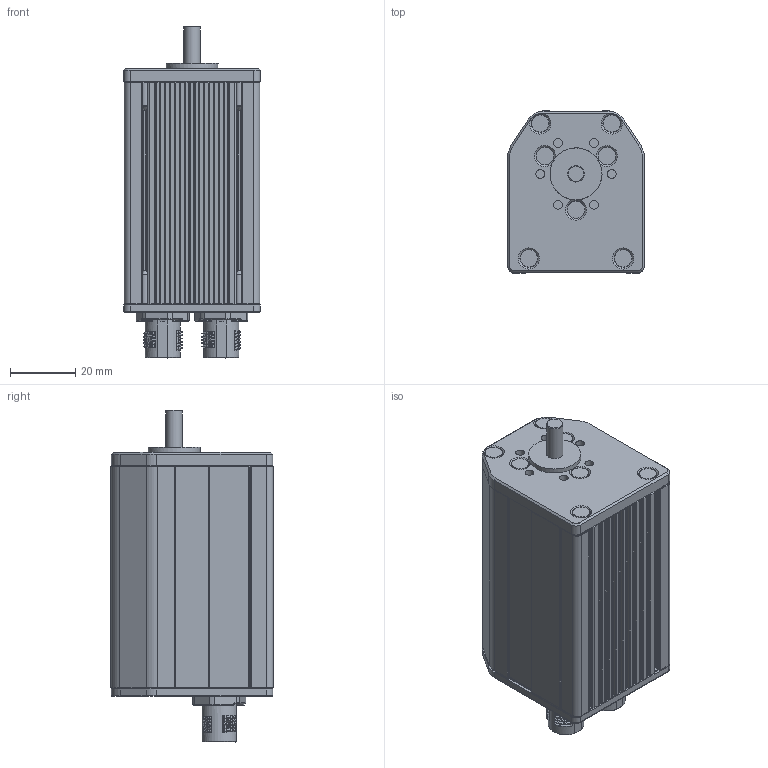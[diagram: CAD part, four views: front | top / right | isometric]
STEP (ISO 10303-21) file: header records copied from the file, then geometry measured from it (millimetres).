
FILE_DESCRIPTION(/* description */ (''),/* implementation_level */ '2;1');
FILE_NAME(/* name */ 'MCS_RSCO_axial_L75.stp',/* time_stamp */ '2017-04-18T08:45:42+02:00',/* author */ ('DR. FRITZ FAULHABER GmbH & Co. KG'),/* organization */ ('DR. FRITZ FAULHABER GmbH & Co. KG'),/* preprocessor_version */ 'ST-DEVELOPER v16',/* originating_system */ 'SIEMENS PLM Software NX 10.0',/* authorisation */ '');
FILE_SCHEMA (('AUTOMOTIVE_DESIGN { 1 0 10303 214 3 1 1 1 }'));
Products named in the file (1): H00000997_D
Bounding box: 42 x 50 x 102.1 mm (x, y, z)
Volume: 145145.4 mm3; surface area: 24226.8 mm2
Topology: 1 solids, 5 shells, 1232 faces, 3165 edges, 1971 vertices
Faces by surface type: plane 496, cylinder 406, bspline 178, torus 72, cone 36, sphere 32, extrusion 12
Full cylindrical faces by diameter (mm): 1.5 x1, 2.7 x6, 2.9 x2, 3.3 x2, 3.4 x2, 5 x1, 5.5 x11, 6.1 x2, 8.3 x2, 16 x1
Entity records: 51938 total; most frequent: CARTESIAN_POINT 24033, ORIENTED_EDGE 6086, DIRECTION 5338, EDGE_CURVE 3043, AXIS2_PLACEMENT_3D 1941, VERTEX_POINT 1934, VECTOR 1456, LINE 1444
